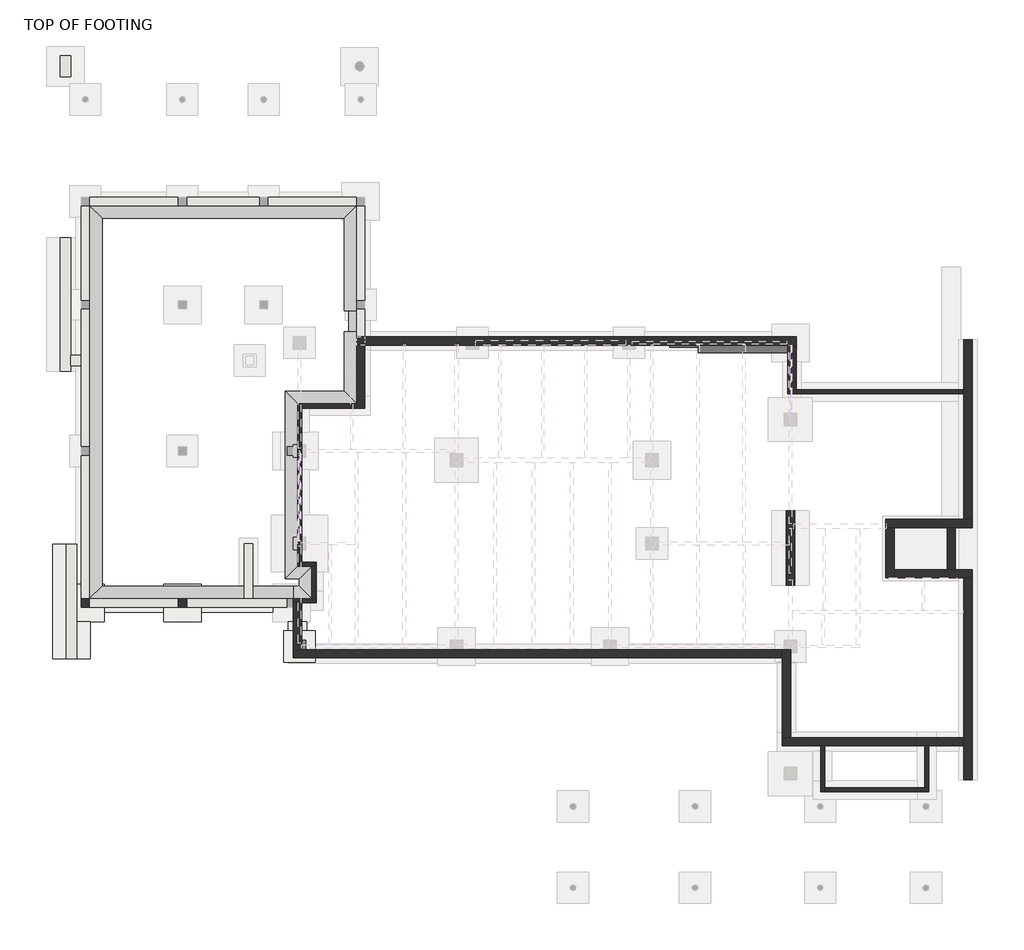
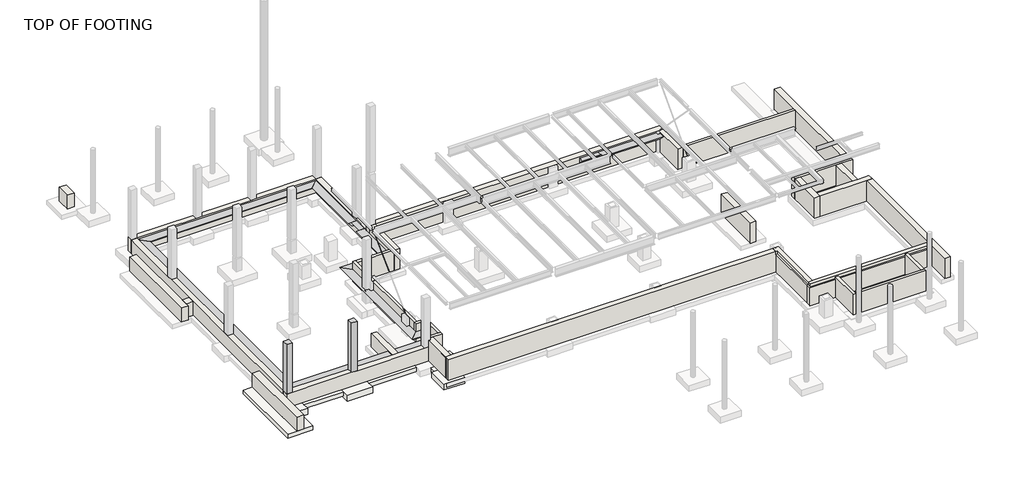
# One storey, part 1 of 4: 32 walls, 8 proxies, 3 footings, 3 slabs, 2 columns.
"""IFC4 building model written with IfcOpenShell, lengths in millimetres."""

from ifc_helpers import new_model, si_unit, frame, origin, place, context, project, spatial, polyline, outline, extrude, faceted_brep, element, save

model = new_model("IFC4")

# Units and contexts
model_context = context("Model", 3, world=origin())
ifc_project = project(units=[si_unit("LENGTHUNIT", "METRE", prefix="MILLI")], contexts=[model_context])

# Site, building, storey
site = spatial("IfcSite", under=ifc_project)
building = spatial("IfcBuilding", under=site)
storey = spatial("IfcBuildingStorey", under=building, Name="TOP OF FOOTING", Elevation=28905.2)

# Proxies
placement = place(None, origin())
element("IfcBuildingElementProxy", 1, Name="Thickened 24\" x 12\"", ObjectType="Thickened 24\" x 12\"", at=placement, inside=storey, context=model_context, shape_type="Brep", body=[
    faceted_brep([(-20560.3454607, 14520.2695005, 29565.6), (-20560.3454607, 14520.2695005, 29870.4), (-19950.7454607, 13910.6695005, 29870.4), (-20255.5454607, 14215.4695005, 29565.6), (-20560.3454607, -4618.6304995, 29565.6), (-20255.5454607, -4313.8304995, 29565.6), (-19950.7454607, -4009.0304995, 29870.4), (-20560.3454607, -4618.6304995, 29870.4)], [[[0, 1, 2, 3]], [[4, 5, 6, 7]], [[1, 0, 4, 7]], [[2, 1, 7, 6]], [[3, 2, 6, 5]], [[0, 3, 5, 4]]]),
])
element("IfcBuildingElementProxy", 2, Name="Thickened 24\" x 12\"", ObjectType="Thickened 24\" x 12\"", at=placement, inside=storey, context=model_context, shape_type="Brep", body=[
    faceted_brep([(-7555.5454607, 9402.1695005, 29565.6), (-7555.5454607, 9402.1695005, 29870.4), (-7923.8454607, 9402.1695005, 29870.4), (-8165.1454607, 9402.1695005, 29870.4), (-7860.3454607, 9402.1695005, 29565.6), (-7619.0454607, 9402.1695005, 29565.6), (-7555.5454607, 14520.2695005, 29565.6), (-7860.3454607, 14215.4695005, 29565.6), (-8165.1454607, 13910.6695005, 29870.4), (-7555.5454607, 14520.2695005, 29870.4)], [[[0, 1, 2, 3, 4, 5]], [[6, 7, 8, 9]], [[1, 0, 6, 9]], [[3, 2, 1, 9, 8]], [[4, 3, 8, 7]], [[0, 5, 4, 7, 6]]]),
])
element("IfcBuildingElementProxy", 3, Name="Thickened 24\" x 12\"", ObjectType="Thickened 24\" x 12\"", at=placement, inside=storey, context=model_context, shape_type="Brep", body=[
    faceted_brep([(-20560.3454607, -4618.6304995, 29565.6), (-20560.3454607, -4618.6304995, 29870.4), (-19950.7454607, -4009.0304995, 29870.4), (-20255.5454607, -4313.8304995, 29565.6), (-10632.1204607, -4618.6304995, 29565.6), (-10632.1204607, -4313.8304995, 29565.6), (-10632.1204607, -4009.0304995, 29870.4), (-10632.1204607, -4618.6304995, 29870.4)], [[[0, 1, 2, 3]], [[4, 5, 6, 7]], [[1, 0, 4, 7]], [[2, 1, 7, 6]], [[3, 2, 6, 5]], [[0, 3, 5, 4]]]),
])
element("IfcBuildingElementProxy", 4, Name="Thickened 24\" x 12\"", ObjectType="Thickened 24\" x 12\"", at=placement, inside=storey, context=model_context, shape_type="Brep", body=[
    faceted_brep([(-10428.9204607, -3040.6554995, 29565.6), (-10428.9204607, -3040.6554995, 29870.4), (-11038.5204607, -3650.2554995, 29870.4), (-10733.7204607, -3345.4554995, 29565.6), (-10428.9204607, 4865.0945005, 29565.6), (-10428.9204607, 4865.0945005, 29870.4), (-11038.5204607, 5474.6945005, 29870.4), (-10733.7204607, 5169.8945005, 29565.6), (-7555.5454607, 4865.0945005, 29565.6), (-7860.3454607, 5169.8945005, 29565.6), (-8165.1454607, 5474.6945005, 29870.4), (-7555.5454607, 4865.0945005, 29870.4)], [[[0, 1, 2, 3]], [[1, 0, 4, 5]], [[2, 1, 5, 6]], [[3, 2, 6, 7]], [[0, 3, 7, 4]], [[8, 9, 10, 11]], [[5, 4, 8, 11]], [[6, 5, 11, 10]], [[7, 6, 10, 9]], [[4, 7, 9, 8]]]),
])
element("IfcBuildingElementProxy", 5, Name="Thickened 24\" x 12\"", ObjectType="Thickened 24\" x 12\"", at=placement, inside=storey, context=model_context, shape_type="Brep", body=[
    faceted_brep([(13450.2545393, 7725.7695005, 30048.2), (13450.2545393, 7725.7695005, 30353.0), (13450.2545393, 7116.1695005, 30353.0), (13450.2545393, 7420.9695005, 30048.2), (9071.9295393, 7725.7695005, 30353.0), (9071.9295393, 7725.7695005, 30048.2), (9071.9295393, 7420.9695005, 30048.2), (9071.9295393, 7116.1695005, 30353.0)], [[[0, 1, 2, 3]], [[4, 5, 6, 7]], [[1, 0, 5, 4]], [[2, 1, 4, 7]], [[3, 2, 7, 6]], [[0, 3, 6, 5]]]),
    faceted_brep([(9071.9295393, 7992.4695005, 30048.2), (9071.9295393, 7992.4695005, 30353.0), (9071.9295393, 7725.7695005, 30353.0), (9071.9295393, 7382.8695005, 30353.0), (9071.9295393, 7687.6695005, 30048.2), (7700.3295393, 7992.4695005, 30353.0), (7700.3295393, 7992.4695005, 30048.2), (7700.3295393, 7687.6695005, 30048.2), (7700.3295393, 7382.8695005, 30353.0), (7700.3295393, 7725.7695005, 30353.0)], [[[0, 1, 2, 3, 4]], [[5, 6, 7, 8, 9]], [[1, 0, 6, 5]], [[3, 2, 1, 5, 9, 8]], [[4, 3, 8, 7]], [[0, 4, 7, 6]]]),
    faceted_brep([(-7555.5454607, 4865.0945005, 29565.6), (-7555.5454607, 4865.0945005, 29870.4), (-8165.1454607, 5474.6945005, 29870.4), (-7860.3454607, 5169.8945005, 29565.6), (-7555.5454607, 8386.1695005, 29870.4), (-7555.5454607, 8386.1695005, 29565.6), (-7860.3454607, 8386.1695005, 29565.6), (-8165.1454607, 8386.1695005, 29870.4)], [[[0, 1, 2, 3]], [[4, 5, 6, 7]], [[1, 0, 5, 4]], [[2, 1, 4, 7]], [[3, 2, 7, 6]], [[0, 3, 6, 5]]]),
    faceted_brep([(-7314.2454607, 8386.1695005, 29565.6), (-7314.2454607, 8386.1695005, 29870.4), (-7555.5454607, 8386.1695005, 29870.4), (-7923.8454607, 8386.1695005, 29870.4), (-7619.0454607, 8386.1695005, 29565.6), (-7314.2454607, 9402.1695005, 29870.4), (-7314.2454607, 9402.1695005, 29565.6), (-7555.5454607, 9402.1695005, 29565.6), (-7619.0454607, 9402.1695005, 29565.6), (-7923.8454607, 9402.1695005, 29870.4), (-7555.5454607, 9402.1695005, 29870.4)], [[[0, 1, 2, 3, 4]], [[5, 6, 7, 8, 9, 10]], [[1, 0, 6, 5]], [[1, 5, 10, 9, 3, 2]], [[4, 3, 9, 8]], [[0, 4, 8, 7, 6]]]),
    faceted_brep([(-7555.5454607, 14520.2695005, 29565.6), (-7555.5454607, 14520.2695005, 29870.4), (-8165.1454607, 13910.6695005, 29870.4), (-7860.3454607, 14215.4695005, 29565.6), (-20560.3454607, 14520.2695005, 29870.4), (-20560.3454607, 14520.2695005, 29565.6), (-20255.5454607, 14215.4695005, 29565.6), (-19950.7454607, 13910.6695005, 29870.4)], [[[0, 1, 2, 3]], [[4, 5, 6, 7]], [[1, 0, 5, 4]], [[2, 1, 4, 7]], [[3, 2, 7, 6]], [[0, 3, 6, 5]]]),
])
element("IfcBuildingElementProxy", 6, Name="Thickened 24\" x 12\"", ObjectType="Thickened 24\" x 12\"", at=placement, inside=storey, context=model_context, shape_type="Brep", body=[
    faceted_brep([(-10632.1204607, -4618.6304995, 29565.6), (-10632.1204607, -4618.6304995, 29870.4), (-10632.1204607, -4009.0304995, 29870.4), (-10632.1204607, -4313.8304995, 29565.6), (-9727.2454607, -4618.6304995, 29565.6), (-10032.0454607, -4313.8304995, 29565.6), (-10336.8454607, -4009.0304995, 29870.4), (-9727.2454607, -4618.6304995, 29870.4)], [[[0, 1, 2, 3]], [[4, 5, 6, 7]], [[1, 0, 4, 7]], [[2, 1, 7, 6]], [[3, 2, 6, 5]], [[0, 3, 5, 4]]]),
])
element("IfcBuildingElementProxy", 7, Name="Thickened 24\" x 12\"", ObjectType="Thickened 24\" x 12\"", at=placement, inside=storey, context=model_context, shape_type="Brep", body=[
    faceted_brep([(-9727.2454607, -4618.6304995, 29565.6), (-9727.2454607, -4618.6304995, 29870.4), (-10336.8454607, -4009.0304995, 29870.4), (-10032.0454607, -4313.8304995, 29565.6), (-9727.2454607, -3040.6554995, 29565.6), (-10032.0454607, -3345.4554995, 29565.6), (-10336.8454607, -3650.2554995, 29870.4), (-9727.2454607, -3040.6554995, 29870.4)], [[[0, 1, 2, 3]], [[4, 5, 6, 7]], [[1, 0, 4, 7]], [[2, 1, 7, 6]], [[3, 2, 6, 5]], [[0, 3, 5, 4]]]),
])
element("IfcBuildingElementProxy", 8, Name="Thickened 24\" x 12\"", ObjectType="Thickened 24\" x 12\"", at=placement, inside=storey, context=model_context, shape_type="Brep", body=[
    faceted_brep([(-9727.2454607, -3040.6554995, 29565.6), (-9727.2454607, -3040.6554995, 29870.4), (-10336.8454607, -3650.2554995, 29870.4), (-10032.0454607, -3345.4554995, 29565.6), (-10428.9204607, -3040.6554995, 29565.6), (-10733.7204607, -3345.4554995, 29565.6), (-11038.5204607, -3650.2554995, 29870.4), (-10428.9204607, -3040.6554995, 29870.4)], [[[0, 1, 2, 3]], [[4, 5, 6, 7]], [[1, 0, 4, 7]], [[2, 1, 7, 6]], [[3, 2, 6, 5]], [[0, 3, 5, 4]]]),
])

# Columns
element("IfcColumn", 9, ObjectType="Concrete-Rectangular-Column : 16 x 16", at=placement, inside=storey, context=model_context, shape_type="Brep", body=[
    faceted_brep([(-20560.3454607, -4618.6304995, 33782.0), (-20560.3454607, -5025.0304995, 33782.0), (-20560.3454607, -5025.0304995, 29972.0), (-20560.3454607, -4618.6304995, 29972.0), (-20966.7454607, -5025.0304995, 33782.0), (-20966.7454607, -5025.0304995, 29972.0), (-20966.7454607, -4720.2304995, 33782.0), (-20966.7454607, -4618.6304995, 33782.0), (-20966.7454607, -4618.6304995, 29972.0)], [[[0, 1, 2, 3]], [[1, 4, 5, 2]], [[4, 6, 7, 8, 5]], [[7, 0, 3, 8]], [[1, 0, 7, 6, 4]], [[3, 2, 5, 8]]]),
])
element("IfcColumn", 10, ObjectType="Concrete-Rectangular-Column : 16 x 16", at=placement, inside=storey, context=model_context, shape_type="SweptSolid", body=[
    extrude(outline(polyline([(-15835.9454607, -4618.6304995), (-15835.9454607, -5025.0304995), (-16242.3454607, -5025.0304995), (-16242.3454607, -4618.6304995), (-15835.9454607, -4618.6304995)])), frame((0.0, 0.0, 29972.0), z_axis=(0.0, 0.0, 1.0), x_axis=(1.0, 0.0, 0.0)), (0.0, 0.0, 1.0), 3810.0),
])

# Footings
element("IfcFooting", 11, ObjectType="Bearing Footing - 36\" x 12\"", at=placement, inside=storey, context=model_context, shape_type="SweptSolid", body=[
    extrude(outline(polyline([(-10886.1204607, -5736.2304995), (-9971.7204607, -5736.2304995), (-9971.7204607, -6180.7304995), (-10886.1204607, -6180.7304995), (-10886.1204607, -5736.2304995)])), frame((0.0, 0.0, 28600.4), z_axis=(0.0, 0.0, 1.0), x_axis=(1.0, 0.0, 0.0)), (0.0, 0.0, 1.0), 304.8),
])
element("IfcFooting", 12, ObjectType="Bearing Footing - 36\" x 12\"", at=placement, inside=storey, context=model_context, shape_type="Brep", body=[
    faceted_brep([(-19849.1454607, -4364.6304995, 28905.2), (-19849.1454607, -5279.0304995, 28905.2), (-16953.5454607, -5279.0304995, 28905.2), (-16953.5454607, -4364.6304995, 28905.2), (-19849.1454607, -5279.0304995, 28600.4), (-16953.5454607, -5279.0304995, 28600.4), (-19849.1454607, -4364.6304995, 28600.4), (-16953.5454607, -4364.6304995, 28600.4)], [[[0, 1, 2, 3]], [[1, 4, 5, 2]], [[4, 6, 7, 5]], [[6, 0, 3, 7]], [[1, 0, 6, 4]], [[3, 2, 5, 7]]]),
    faceted_brep([(-15124.7454607, -4364.6304995, 28905.2), (-15124.7454607, -5279.0304995, 28905.2), (-11647.3763201, -5279.0304995, 28905.2), (-11647.3763201, -4364.6304995, 28905.2), (-12354.5579607, -4364.6304995, 28905.2), (-13268.9579607, -4364.6304995, 28905.2), (-15124.7454607, -5279.0304995, 28600.4), (-11647.3763201, -5279.0304995, 28600.4), (-15124.7454607, -4364.6304995, 28600.4), (-13268.9579607, -4364.6304995, 28600.4), (-12354.5579607, -4364.6304995, 28600.4), (-11647.3763201, -4364.6304995, 28600.4)], [[[0, 1, 2, 3, 4, 5]], [[1, 6, 7, 2]], [[6, 8, 9, 10, 11, 7]], [[8, 0, 5, 4, 3, 11, 10, 9]], [[1, 0, 8, 6]], [[3, 2, 7, 11]]]),
])
element("IfcFooting", 13, ObjectType="Bearing Footing - 72\" x 12\" 2", at=placement, inside=storey, context=model_context, shape_type="SweptSolid", body=[
    extrude(outline(polyline([(-20517.4622482, -7552.3304995), (-22346.2622482, -7552.3304995), (-22346.2622482, -1964.3304995), (-21220.7454607, -1964.3304995), (-21220.7454607, -3907.4304995), (-21677.9454607, -3907.4304995), (-21677.9454607, -5736.2304995), (-20517.4622482, -5736.2304995), (-20517.4622482, -7552.3304995)])), frame((0.0, 0.0, 28600.4), z_axis=(0.0, 0.0, 1.0), x_axis=(1.0, 0.0, 0.0)), (0.0, 0.0, 1.0), 304.8),
])

# Slabs
element("IfcSlab", 14, ObjectType="Footing-Rectangular : 6'-0\" x 6'-0\" x 1'-6\"", at=placement, inside=storey, context=model_context, shape_type="Brep", body=[
    faceted_brep([(-19849.1454607, -3907.4304995, 28905.2), (-20306.3454607, -3907.4304995, 28905.2), (-21220.7454607, -3907.4304995, 28905.2), (-21677.9454607, -3907.4304995, 28905.2), (-21677.9454607, -5736.2304995, 28905.2), (-20517.4622482, -5736.2304995, 28905.2), (-19849.1454607, -5736.2304995, 28905.2), (-19849.1454607, -5279.0304995, 28905.2), (-19849.1454607, -4364.6304995, 28905.2), (-19849.1454607, -3907.4304995, 28448.0), (-19849.1454607, -5736.2304995, 28448.0), (-21677.9454607, -5736.2304995, 28448.0), (-21677.9454607, -3907.4304995, 28448.0), (-21677.9454607, -3907.4304995, 28600.4), (-21677.9454607, -5736.2304995, 28600.4)], [[[0, 1, 2, 3, 4, 5, 6, 7, 8]], [[9, 10, 11, 12]], [[3, 2, 1, 0, 9, 12, 13]], [[4, 3, 13, 12, 11, 14]], [[6, 5, 4, 14, 11, 10]], [[0, 8, 7, 6, 10, 9]]]),
])
element("IfcSlab", 15, ObjectType="Footing-Rectangular : 6'-0\" x 6'-0\" x 1'-6\"", at=placement, inside=storey, context=model_context, shape_type="Brep", body=[
    faceted_brep([(-15124.7454607, -3907.4304995, 28905.2), (-16953.5454607, -3907.4304995, 28905.2), (-16953.5454607, -4364.6304995, 28905.2), (-16953.5454607, -5279.0304995, 28905.2), (-16953.5454607, -5736.2304995, 28905.2), (-15124.7454607, -5736.2304995, 28905.2), (-15124.7454607, -5279.0304995, 28905.2), (-15124.7454607, -4364.6304995, 28905.2), (-15124.7454607, -3907.4304995, 28448.0), (-15124.7454607, -5736.2304995, 28448.0), (-16953.5454607, -5736.2304995, 28448.0), (-16953.5454607, -3907.4304995, 28448.0)], [[[0, 1, 2, 3, 4, 5, 6, 7]], [[8, 9, 10, 11]], [[1, 0, 8, 11]], [[4, 3, 2, 1, 11, 10]], [[5, 4, 10, 9]], [[0, 7, 6, 5, 9, 8]]]),
])
element("IfcSlab", 16, ObjectType="Footing-Rectangular_With_Pier : F1 - 5'-0\" x 5'-0\" x 1'-6\"", at=placement, inside=storey, context=model_context, shape_type="SolidModel", body=[
    extrude(outline(polyline([(-10022.5204607, -6637.9304995), (-10022.5204607, -7247.5304995), (-10632.1204607, -7247.5304995), (-10632.1204607, -6637.9304995), (-10022.5204607, -6637.9304995)])), frame((0.0, 0.0, 28905.2), z_axis=(0.0, 0.0, 1.0), x_axis=(1.0, 0.0, 0.0)), (0.0, 0.0, 1.0), 1549.4),
    faceted_brep([(-9565.3204607, -6180.7304995, 28905.2), (-9971.7204607, -6180.7304995, 28905.2), (-10886.1204607, -6180.7304995, 28905.2), (-11089.3204607, -6180.7304995, 28905.2), (-11089.3204607, -7704.7304995, 28905.2), (-10886.1204607, -7704.7304995, 28905.2), (-9565.3204607, -7704.7304995, 28905.2), (-9565.3204607, -6841.1304995, 28905.2), (-9565.3204607, -6180.7304995, 28448.0), (-9565.3204607, -7704.7304995, 28448.0), (-11089.3204607, -7704.7304995, 28448.0), (-11089.3204607, -6180.7304995, 28448.0), (-9565.3204607, -7704.7304995, 28600.4)], [[[0, 1, 2, 3, 4, 5, 6, 7]], [[8, 9, 10, 11]], [[3, 2, 1, 0, 8, 11]], [[4, 3, 11, 10]], [[6, 5, 4, 10, 9, 12]], [[0, 7, 6, 12, 9, 8]]]),
])

# Walls
element("IfcWall", 17, ObjectType="Foundation - 16\" Concrete", at=placement, inside=storey, context=model_context, shape_type="Brep", body=[
    faceted_brep([(-7555.5454607, 7725.7695005, 28905.2), (-7149.1454607, 7725.7695005, 28905.2), (13450.2545393, 7725.7695005, 28905.2), (13856.6545393, 7725.7695005, 28905.2), (13856.6545393, 7725.7695005, 30480.0), (13450.2545393, 7725.7695005, 30480.0), (-7149.1454607, 7725.7695005, 30480.0), (-7555.5454607, 7725.7695005, 30480.0), (-7555.5454607, 8132.1695005, 28905.2), (-7555.5454607, 8132.1695005, 29972.0), (-7555.5454607, 8132.1695005, 30480.0), (-7149.1454607, 8132.1695005, 30480.0), (13856.6545393, 8132.1695005, 30480.0), (13856.6545393, 8132.1695005, 28905.2), (-7149.1454607, 8132.1695005, 28905.2)], [[[0, 1, 2, 3, 4, 5, 6, 7]], [[8, 9, 10, 11, 12, 13, 14]], [[3, 2, 1, 0, 8, 14, 13]], [[7, 6, 5, 4, 12, 11, 10]], [[4, 3, 13, 12]], [[0, 7, 10, 9, 8]]]),
])
element("IfcWall", 18, ObjectType="Foundation - 16\" Concrete", at=placement, inside=storey, context=model_context, shape_type="Brep", body=[
    faceted_brep([(13450.2545393, 7725.7695005, 28905.2), (13450.2545393, 5350.8695005, 28905.2), (13450.2545393, 5350.8695005, 30480.0), (13450.2545393, 7725.7695005, 30480.0), (13856.6545393, 7725.7695005, 28905.2), (13856.6545393, 7725.7695005, 30480.0), (13856.6545393, 5554.0695005, 30480.0), (13856.6545393, 5350.8695005, 30480.0), (13856.6545393, 5350.8695005, 28905.2), (13856.6545393, 5554.0695005, 28905.2)], [[[0, 1, 2, 3]], [[4, 5, 6, 7, 8, 9]], [[1, 0, 4, 9, 8]], [[3, 2, 7, 6, 5]], [[0, 3, 5, 4]], [[2, 1, 8, 7]]]),
])
element("IfcWall", 19, ObjectType="Foundation - 16\" Concrete", at=placement, inside=storey, context=model_context, shape_type="Brep", body=[
    faceted_brep([(22019.578935, 7995.5948911, 28905.2), (22019.578935, 5554.0695005, 28905.2), (22019.578935, 5350.8695005, 28905.2), (22019.578935, -757.8304995, 28905.2), (22019.578935, -757.8304995, 30480.0), (22019.578935, 5350.8695005, 30480.0), (22019.578935, 5554.0695005, 30480.0), (22019.578935, 7995.5948911, 30480.0), (22425.978935, 7995.5948911, 28905.2), (22425.978935, 7995.5948911, 30480.0), (22425.978935, -757.8304995, 30480.0), (22425.978935, -757.8304995, 28905.2)], [[[0, 1, 2, 3, 4, 5, 6, 7]], [[8, 9, 10, 11]], [[3, 2, 1, 0, 8, 11]], [[7, 6, 5, 4, 10, 9]], [[0, 7, 9, 8]], [[4, 3, 11, 10]]]),
])
element("IfcWall", 20, ObjectType="Foundation - 16\" Concrete", at=placement, inside=storey, context=model_context, shape_type="Brep", body=[
    faceted_brep([(13177.2045393, -7095.1304995, 28905.2), (-10225.7204607, -7095.1304995, 28905.2), (-10632.1204607, -7095.1304995, 28905.2), (-10632.1204607, -7095.1304995, 30480.0), (-10225.7204607, -7095.1304995, 30480.0), (13177.2045393, -7095.1304995, 30480.0), (13177.2045393, -7501.5304995, 28905.2), (13177.2045393, -7501.5304995, 30276.8), (13177.2045393, -7501.5304995, 30480.0), (-10632.1204607, -7501.5304995, 30480.0), (-10632.1204607, -7501.5304995, 28905.2)], [[[0, 1, 2, 3, 4, 5]], [[6, 7, 8, 9, 10]], [[2, 1, 0, 6, 10]], [[5, 4, 3, 9, 8]], [[3, 2, 10, 9]], [[0, 5, 8, 7, 6]]]),
])
element("IfcWall", 21, ObjectType="Foundation - 16\" Concrete", at=placement, inside=storey, context=model_context, shape_type="Brep", body=[
    faceted_brep([(-10225.7204607, -7095.1304995, 28905.2), (-10225.7204607, -4821.8304995, 28905.2), (-10225.7204607, -4821.8304995, 30480.0), (-10225.7204607, -7095.1304995, 30480.0), (-10632.1204607, -7095.1304995, 28905.2), (-10632.1204607, -7095.1304995, 30480.0), (-10632.1204607, -5025.0304995, 30480.0), (-10632.1204607, -4821.8304995, 30480.0), (-10632.1204607, -4821.8304995, 28905.2)], [[[0, 1, 2, 3]], [[4, 5, 6, 7, 8]], [[1, 0, 4, 8]], [[3, 2, 7, 6, 5]], [[0, 3, 5, 4]], [[2, 1, 8, 7]]]),
])
element("IfcWall", 22, ObjectType="Foundation - 16\" Concrete", at=placement, inside=storey, context=model_context, shape_type="Brep", body=[
    faceted_brep([(22425.978935, -757.8304995, 28905.2), (22019.578935, -757.8304995, 28905.2), (18219.8486799, -757.8304995, 28905.2), (18219.8486799, -757.8304995, 30480.0), (22019.578935, -757.8304995, 30480.0), (22425.978935, -757.8304995, 30480.0), (22425.978935, -1164.2304995, 28905.2), (22425.978935, -1164.2304995, 30480.0), (21605.9861799, -1164.2304995, 30480.0), (21199.5861799, -1164.2304995, 30480.0), (18626.2486799, -1164.2304995, 30480.0), (18219.8486799, -1164.2304995, 30480.0), (18219.8486799, -1164.2304995, 28905.2), (18626.2486799, -1164.2304995, 28905.2), (21199.5861799, -1164.2304995, 28905.2), (21605.9861799, -1164.2304995, 28905.2)], [[[0, 1, 2, 3, 4, 5]], [[6, 7, 8, 9, 10, 11, 12, 13, 14, 15]], [[2, 1, 0, 6, 15, 14, 13, 12]], [[5, 4, 3, 11, 10, 9, 8, 7]], [[0, 5, 7, 6]], [[3, 2, 12, 11]]]),
])
element("IfcWall", 23, ObjectType="Foundation - 16\" Concrete", at=placement, inside=storey, context=model_context, shape_type="Brep", body=[
    faceted_brep([(-20966.7454607, 14520.2695005, 28905.2), (-20560.3454607, 14520.2695005, 28905.2), (-7555.5454607, 14520.2695005, 28905.2), (-7149.1454607, 14520.2695005, 28905.2), (-7149.1454607, 14520.2695005, 29972.0), (-7555.5454607, 14520.2695005, 29972.0), (-11873.5454607, 14520.2695005, 29972.0), (-12279.9454607, 14520.2695005, 29972.0), (-15835.9454607, 14520.2695005, 29972.0), (-16242.3454607, 14520.2695005, 29972.0), (-20560.3454607, 14520.2695005, 29972.0), (-20966.7454607, 14520.2695005, 29972.0), (-20966.7454607, 14926.6695005, 28905.2), (-20966.7454607, 14926.6695005, 29972.0), (-20560.3454607, 14926.6695005, 29972.0), (-16242.3454607, 14926.6695005, 29972.0), (-15835.9454607, 14926.6695005, 29972.0), (-12279.9454607, 14926.6695005, 29972.0), (-11873.5454607, 14926.6695005, 29972.0), (-7555.5454607, 14926.6695005, 29972.0), (-7149.1454607, 14926.6695005, 29972.0), (-7149.1454607, 14926.6695005, 28905.2)], [[[0, 1, 2, 3, 4, 5, 6, 7, 8, 9, 10, 11]], [[12, 13, 14, 15, 16, 17, 18, 19, 20, 21]], [[3, 2, 1, 0, 12, 21]], [[11, 10, 9, 8, 7, 6, 5, 4, 20, 19, 18, 17, 16, 15, 14, 13]], [[4, 3, 21, 20]], [[0, 11, 13, 12]]]),
])
element("IfcWall", 24, ObjectType="Foundation - 16\" Concrete", at=placement, inside=storey, context=model_context, shape_type="Brep", body=[
    faceted_brep([(-7555.5454607, 14520.2695005, 28905.2), (-7555.5454607, 8132.1695005, 28905.2), (-7555.5454607, 8132.1695005, 29972.0), (-7555.5454607, 9491.0695005, 29972.0), (-7555.5454607, 9897.4695005, 29972.0), (-7555.5454607, 14520.2695005, 29972.0), (-7149.1454607, 14520.2695005, 28905.2), (-7149.1454607, 14520.2695005, 29972.0), (-7149.1454607, 9897.4695005, 29972.0), (-7149.1454607, 9491.0695005, 29972.0), (-7149.1454607, 8132.1695005, 29972.0), (-7149.1454607, 8132.1695005, 28905.2)], [[[0, 1, 2, 3, 4, 5]], [[6, 7, 8, 9, 10, 11]], [[1, 0, 6, 11]], [[5, 4, 3, 2, 10, 9, 8, 7]], [[0, 5, 7, 6]], [[2, 1, 11, 10]]]),
])
element("IfcWall", 25, ObjectType="Foundation - 16\" Concrete", at=placement, inside=storey, context=model_context, shape_type="Brep", body=[
    faceted_brep([(-10632.1204607, -4618.6304995, 28905.2), (-12608.5579607, -4618.6304995, 28905.2), (-13014.9579607, -4618.6304995, 28905.2), (-20560.3454607, -4618.6304995, 28905.2), (-20966.7454607, -4618.6304995, 28905.2), (-20966.7454607, -4618.6304995, 29972.0), (-20560.3454607, -4618.6304995, 29972.0), (-16242.3454607, -4618.6304995, 29972.0), (-15835.9454607, -4618.6304995, 29972.0), (-13014.9579607, -4618.6304995, 29972.0), (-12608.5579607, -4618.6304995, 29972.0), (-10936.1763201, -4618.6304995, 29972.0), (-10632.1204607, -4618.6304995, 29972.0), (-10632.1204607, -5025.0304995, 28905.2), (-10632.1204607, -5025.0304995, 29972.0), (-10936.1763201, -5025.0304995, 29972.0), (-15835.9454607, -5025.0304995, 29972.0), (-16242.3454607, -5025.0304995, 29972.0), (-20560.3454607, -5025.0304995, 29972.0), (-20966.7454607, -5025.0304995, 29972.0), (-20966.7454607, -5025.0304995, 28905.2)], [[[0, 1, 2, 3, 4, 5, 6, 7, 8, 9, 10, 11, 12]], [[13, 14, 15, 16, 17, 18, 19, 20]], [[4, 3, 2, 1, 0, 13, 20]], [[12, 11, 10, 9, 8, 7, 6, 5, 19, 18, 17, 16, 15, 14]], [[0, 12, 14, 13]], [[5, 4, 20, 19]]]),
])
element("IfcWall", 26, ObjectType="Foundation - 16\" Concrete", at=placement, inside=storey, context=model_context, shape_type="Brep", body=[
    faceted_brep([(-20560.3454607, -4618.6304995, 28905.2), (-20560.3454607, 14520.2695005, 28905.2), (-20560.3454607, 14520.2695005, 29972.0), (-20560.3454607, 9897.4695005, 29972.0), (-20560.3454607, 9491.0695005, 29972.0), (-20560.3454607, 2785.4695005, 29972.0), (-20560.3454607, 2379.0695005, 29972.0), (-20560.3454607, -4618.6304995, 29972.0), (-20966.7454607, -4618.6304995, 28905.2), (-20966.7454607, -4618.6304995, 29972.0), (-20966.7454607, 2379.0695005, 29972.0), (-20966.7454607, 2785.4695005, 29972.0), (-20966.7454607, 6722.4695005, 29972.0), (-20966.7454607, 7230.4695005, 29972.0), (-20966.7454607, 9491.0695005, 29972.0), (-20966.7454607, 9897.4695005, 29972.0), (-20966.7454607, 14520.2695005, 29972.0), (-20966.7454607, 14520.2695005, 28905.2), (-20966.7454607, 7230.4695005, 28905.2), (-20966.7454607, 6722.4695005, 28905.2)], [[[0, 1, 2, 3, 4, 5, 6, 7]], [[8, 9, 10, 11, 12, 13, 14, 15, 16, 17, 18, 19]], [[1, 0, 8, 19, 18, 17]], [[7, 6, 5, 4, 3, 2, 16, 15, 14, 13, 12, 11, 10, 9]], [[0, 7, 9, 8]], [[2, 1, 17, 16]]]),
])
element("IfcWall", 27, ObjectType="Foundation - 16\" Concrete", at=placement, inside=storey, context=model_context, shape_type="Brep", body=[
    faceted_brep([(-7555.5454607, 7725.7695005, 30480.0), (-7555.5454607, 7725.7695005, 28905.2), (-7555.5454607, 4865.0945005, 28905.2), (-7555.5454607, 4661.8945005, 28905.2), (-7555.5454607, 4661.8945005, 30480.0), (-7555.5454607, 4865.0945005, 30480.0), (-7149.1454607, 7725.7695005, 28905.2), (-7149.1454607, 7725.7695005, 30480.0), (-7149.1454607, 4661.8945005, 30480.0), (-7149.1454607, 4661.8945005, 28905.2)], [[[0, 1, 2, 3, 4, 5]], [[6, 7, 8, 9]], [[3, 2, 1, 6, 9]], [[0, 5, 4, 8, 7]], [[4, 3, 9, 8]], [[0, 7, 6, 1]]]),
])
element("IfcWall", 28, ObjectType="Foundation - 16\" Concrete", at=placement, inside=storey, context=model_context, shape_type="Brep", body=[
    faceted_brep([(18626.2486799, -3602.6304995, 28905.2), (18626.2486799, -3196.2304995, 28905.2), (18626.2486799, -1164.2304995, 28905.2), (18626.2486799, -1164.2304995, 30480.0), (18626.2486799, -3196.2304995, 30480.0), (18626.2486799, -3602.6304995, 30480.0), (18219.8486799, -3602.6304995, 28905.2), (18219.8486799, -3602.6304995, 30480.0), (18219.8486799, -1164.2304995, 30480.0), (18219.8486799, -1164.2304995, 28905.2)], [[[0, 1, 2, 3, 4, 5]], [[6, 7, 8, 9]], [[2, 1, 0, 6, 9]], [[5, 4, 3, 8, 7]], [[0, 5, 7, 6]], [[3, 2, 9, 8]]]),
])
element("IfcWall", 29, ObjectType="Foundation - 16\" Concrete", at=placement, inside=storey, context=model_context, shape_type="Brep", body=[
    faceted_brep([(18626.2486799, -3602.6304995, 28905.2), (22019.578935, -3602.6304995, 28905.2), (22425.978935, -3602.6304995, 28905.2), (22425.978935, -3602.6304995, 30480.0), (22019.578935, -3602.6304995, 30480.0), (18626.2486799, -3602.6304995, 30480.0), (18626.2486799, -3196.2304995, 28905.2), (18626.2486799, -3196.2304995, 30480.0), (21199.5861799, -3196.2304995, 30480.0), (21605.9861799, -3196.2304995, 30480.0), (22425.978935, -3196.2304995, 30480.0), (22425.978935, -3196.2304995, 28905.2), (21605.9861799, -3196.2304995, 28905.2), (21199.5861799, -3196.2304995, 28905.2)], [[[0, 1, 2, 3, 4, 5]], [[6, 7, 8, 9, 10, 11, 12, 13]], [[2, 1, 0, 6, 13, 12, 11]], [[5, 4, 3, 10, 9, 8, 7]], [[0, 5, 7, 6]], [[3, 2, 11, 10]]]),
])
element("IfcWall", 30, ObjectType="Foundation - 16\" Concrete", at=placement, inside=storey, context=model_context, shape_type="SweptSolid", body=[
    extrude(outline(polyline([(21605.9861799, -1164.2304995), (21605.9861799, -3196.2304995), (21199.5861799, -3196.2304995), (21199.5861799, -1164.2304995), (21605.9861799, -1164.2304995)])), frame((0.0, 0.0, 28905.2), z_axis=(0.0, 0.0, 1.0), x_axis=(1.0, 0.0, 0.0)), (0.0, 0.0, 1.0), 1574.8),
])
element("IfcWall", 31, ObjectType="Foundation - 16\" Concrete", at=placement, inside=storey, context=model_context, shape_type="SweptSolid", body=[
    extrude(outline(polyline([(-12608.5579607, -1935.7554995), (-12608.5579607, -4618.6304995), (-13014.9579607, -4618.6304995), (-13014.9579607, -1935.7554995), (-12608.5579607, -1935.7554995)])), frame((0.0, 0.0, 28905.2), z_axis=(0.0, 0.0, 1.0), x_axis=(1.0, 0.0, 0.0)), (0.0, 0.0, 1.0), 1066.8),
])
element("IfcWall", 32, ObjectType="Foundation - 16\" Concrete", at=placement, inside=storey, context=model_context, shape_type="Brep", body=[
    faceted_brep([(22019.578935, -3602.6304995, 28905.2), (22019.578935, -11381.3804995, 28905.2), (22019.578935, -11787.7804995, 28905.2), (22019.578935, -13445.1304995, 28905.2), (22019.578935, -13445.1304995, 30480.0), (22019.578935, -11686.1804995, 30480.0), (22019.578935, -11381.3804995, 30480.0), (22019.578935, -3602.6304995, 30480.0), (22425.978935, -3602.6304995, 28905.2), (22425.978935, -3602.6304995, 30480.0), (22425.978935, -13445.1304995, 30480.0), (22425.978935, -13445.1304995, 28905.2)], [[[0, 1, 2, 3, 4, 5, 6, 7]], [[8, 9, 10, 11]], [[3, 2, 1, 0, 8, 11]], [[4, 3, 11, 10]], [[7, 6, 5, 4, 10, 9]], [[0, 7, 9, 8]]]),
])
element("IfcWall", 33, ObjectType="Foundation - 16\" Concrete", at=placement, inside=storey, context=model_context, shape_type="SweptSolid", body=[
    extrude(outline(polyline([(13364.5295393, -3958.2304995), (13364.5295393, -326.0304995), (13770.9295393, -326.0304995), (13770.9295393, -3958.2304995), (13364.5295393, -3958.2304995)])), frame((0.0, 0.0, 28905.2), z_axis=(0.0, 0.0, 1.0), x_axis=(1.0, 0.0, 0.0)), (0.0, 0.0, 1.0), 1574.8),
])
element("IfcWall", 34, ObjectType="Foundation - 16\" Concrete w/Brick Ledge", at=placement, inside=storey, context=model_context, shape_type="Brep", body=[
    faceted_brep([(22019.578935, -11381.3804995, 28905.2), (13583.6045393, -11381.3804995, 28905.2), (13177.2045393, -11381.3804995, 28905.2), (13177.2045393, -11381.3804995, 30276.8), (13278.8045393, -11381.3804995, 30276.8), (13278.8045393, -11381.3804995, 30480.0), (13583.6045393, -11381.3804995, 30480.0), (22019.578935, -11381.3804995, 30480.0), (13177.2045393, -11787.7804995, 28905.2), (15037.7545393, -11787.7804995, 28905.2), (15240.9545393, -11787.7804995, 28905.2), (20105.0545393, -11787.7804995, 28905.2), (20308.2545393, -11787.7804995, 28905.2), (22019.578935, -11787.7804995, 28905.2), (22019.578935, -11787.7804995, 30276.8), (13177.2045393, -11787.7804995, 30276.8), (13278.8045393, -11686.1804995, 30480.0), (22019.578935, -11686.1804995, 30480.0), (13278.8045393, -11686.1804995, 30276.8), (22019.578935, -11686.1804995, 30276.8)], [[[0, 1, 2, 3, 4, 5, 6, 7]], [[8, 9, 10, 11, 12, 13, 14, 15]], [[2, 1, 0, 13, 12, 11, 10, 9, 8]], [[7, 6, 5, 16, 17]], [[2, 8, 15, 3]], [[18, 19, 17, 16]], [[19, 18, 4, 3, 15, 14]], [[18, 16, 5, 4]], [[0, 7, 17, 19, 14, 13]]]),
])
element("IfcWall", 35, ObjectType="Foundation - 16\" Concrete w/Brick Ledge", at=placement, inside=storey, context=model_context, shape_type="Brep", body=[
    faceted_brep([(13583.6045393, -11381.3804995, 28905.2), (13583.6045393, -7095.1304995, 28905.2), (13583.6045393, -7095.1304995, 30480.0), (13583.6045393, -11381.3804995, 30480.0), (13177.2045393, -7095.1304995, 28905.2), (13177.2045393, -7501.5304995, 28905.2), (13177.2045393, -11381.3804995, 28905.2), (13177.2045393, -11381.3804995, 30276.8), (13177.2045393, -7501.5304995, 30276.8), (13177.2045393, -7501.5304995, 30480.0), (13177.2045393, -7095.1304995, 30480.0), (13278.8045393, -7501.5304995, 30480.0), (13278.8045393, -11381.3804995, 30480.0), (13278.8045393, -11381.3804995, 30276.8), (13278.8045393, -7501.5304995, 30276.8)], [[[0, 1, 2, 3]], [[4, 5, 6, 7, 8, 9, 10]], [[1, 0, 6, 5, 4]], [[3, 2, 10, 9, 11, 12]], [[2, 1, 4, 10]], [[0, 3, 12, 13, 7, 6]], [[8, 14, 11, 9]], [[11, 14, 13, 12]], [[14, 8, 7, 13]]]),
])
element("IfcWall", 36, ObjectType="Foundation - 20\" Concrete", at=placement, inside=storey, context=model_context, shape_type="Brep", body=[
    faceted_brep([(-21990.9734711, 12968.7995005, 28905.2), (-21990.9734711, 6469.2695005, 28905.2), (-21990.9734711, 6469.2695005, 29972.0), (-21990.9734711, 12968.7995005, 29972.0), (-21482.9734711, 12968.7995005, 28905.2), (-21482.9734711, 12968.7995005, 29972.0), (-21482.9734711, 7230.4695005, 29972.0), (-21482.9734711, 6722.4695005, 29972.0), (-21482.9734711, 6469.2695005, 29972.0), (-21482.9734711, 6469.2695005, 28905.2), (-21482.9734711, 6722.4695005, 28905.2), (-21482.9734711, 7230.4695005, 28905.2)], [[[0, 1, 2, 3]], [[4, 5, 6, 7, 8, 9, 10, 11]], [[1, 0, 4, 11, 10, 9]], [[2, 1, 9, 8]], [[3, 2, 8, 7, 6, 5]], [[0, 3, 5, 4]]]),
])
element("IfcWall", 37, ObjectType="Foundation - 20\" Concrete", at=placement, inside=storey, context=model_context, shape_type="SweptSolid", body=[
    extrude(outline(polyline([(-21685.8622482, -7552.3304995), (-21685.8622482, -1964.3304995), (-21177.8622482, -1964.3304995), (-21177.8622482, -7552.3304995), (-21685.8622482, -7552.3304995)])), frame((0.0, 0.0, 28905.2), z_axis=(0.0, 0.0, 1.0), x_axis=(1.0, 0.0, 0.0)), (0.0, 0.0, 1.0), 1066.8),
])
element("IfcWall", 38, ObjectType="Foundation - 20\" Concrete", at=placement, inside=storey, context=model_context, shape_type="SweptSolid", body=[
    extrude(outline(polyline([(-21990.9919313, 20797.4082736), (-21990.9919313, 21813.4082736), (-21482.9919313, 21813.4082736), (-21482.9919313, 20797.4082736), (-21990.9919313, 20797.4082736)])), frame((0.0, 0.0, 28905.2), z_axis=(0.0, 0.0, 1.0), x_axis=(1.0, 0.0, 0.0)), (0.0, 0.0, 1.0), 1066.8),
])
element("IfcWall", 39, ObjectType="Foundation - 20\" Concrete", at=placement, inside=storey, context=model_context, shape_type="SweptSolid", body=[
    extrude(outline(polyline([(-20966.7454607, 6722.4695005), (-21482.9734711, 6722.4695005), (-21482.9734711, 7230.4695005), (-20966.7454607, 7230.4695005), (-20966.7454607, 6722.4695005)])), frame((0.0, 0.0, 28905.2), z_axis=(0.0, 0.0, 1.0), x_axis=(1.0, 0.0, 0.0)), (0.0, 0.0, 1.0), 1066.8),
])
element("IfcWall", 40, ObjectType="Foundation - 8\" Concrete", at=placement, inside=storey, context=model_context, shape_type="SweptSolid", body=[
    extrude(outline(polyline([(22019.578935, 5350.8695005), (13856.6545393, 5350.8695005), (13856.6545393, 5554.0695005), (22019.578935, 5554.0695005), (22019.578935, 5350.8695005)])), frame((0.0, 0.0, 28905.2), z_axis=(0.0, 0.0, 1.0), x_axis=(1.0, 0.0, 0.0)), (0.0, 0.0, 1.0), 1574.8),
])
element("IfcWall", 41, ObjectType="Foundation - 8\" Concrete", at=placement, inside=storey, context=model_context, shape_type="Brep", body=[
    faceted_brep([(-10225.7204607, -2837.4554995, 28905.2), (-10225.7204607, 4661.8945005, 28905.2), (-10225.7204607, 4865.0945005, 28905.2), (-10225.7204607, 4865.0945005, 30480.0), (-10225.7204607, 4661.8945005, 30480.0), (-10225.7204607, -2837.4554995, 30480.0), (-10428.9204607, -2837.4554995, 28905.2), (-10428.9204607, -2837.4554995, 30480.0), (-10428.9204607, 4865.0945005, 30480.0), (-10428.9204607, 4865.0945005, 28905.2)], [[[0, 1, 2, 3, 4, 5]], [[6, 7, 8, 9]], [[2, 1, 0, 6, 9]], [[5, 4, 3, 8, 7]], [[3, 2, 9, 8]], [[0, 5, 7, 6]]]),
])
element("IfcWall", 42, ObjectType="Foundation - 8\" Concrete", at=placement, inside=storey, context=model_context, shape_type="SweptSolid", body=[
    extrude(outline(polyline([(-10225.7204607, 4865.0945005), (-7555.5454607, 4865.0945005), (-7555.5454607, 4661.8945005), (-10225.7204607, 4661.8945005), (-10225.7204607, 4865.0945005)])), frame((0.0, 0.0, 28905.2), z_axis=(0.0, 0.0, 1.0), x_axis=(1.0, 0.0, 0.0)), (0.0, 0.0, 1.0), 1574.8),
])
element("IfcWall", 43, ObjectType="Foundation - 8\" Concrete", at=placement, inside=storey, context=model_context, shape_type="Brep", body=[
    faceted_brep([(-10428.9204607, -3040.6554995, 28905.2), (-9727.2454607, -3040.6554995, 28905.2), (-9524.0454607, -3040.6554995, 28905.2), (-9524.0454607, -3040.6554995, 30480.0), (-9727.2454607, -3040.6554995, 30480.0), (-10428.9204607, -3040.6554995, 30480.0), (-10428.9204607, -2837.4554995, 28905.2), (-10428.9204607, -2837.4554995, 30480.0), (-10225.7204607, -2837.4554995, 30480.0), (-9524.0454607, -2837.4554995, 30480.0), (-9524.0454607, -2837.4554995, 28905.2), (-10225.7204607, -2837.4554995, 28905.2)], [[[0, 1, 2, 3, 4, 5]], [[6, 7, 8, 9, 10, 11]], [[2, 1, 0, 6, 11, 10]], [[5, 4, 3, 9, 8, 7]], [[3, 2, 10, 9]], [[0, 5, 7, 6]]]),
])
element("IfcWall", 44, ObjectType="Foundation - 8\" Concrete", at=placement, inside=storey, context=model_context, shape_type="SweptSolid", body=[
    extrude(outline(polyline([(-9727.2454607, -4618.6304995), (-9727.2454607, -3040.6554995), (-9524.0454607, -3040.6554995), (-9524.0454607, -4618.6304995), (-9727.2454607, -4618.6304995)])), frame((0.0, 0.0, 28905.2), z_axis=(0.0, 0.0, 1.0), x_axis=(1.0, 0.0, 0.0)), (0.0, 0.0, 1.0), 1574.8),
])
element("IfcWall", 45, ObjectType="Foundation - 8\" Concrete", at=placement, inside=storey, context=model_context, shape_type="Brep", body=[
    faceted_brep([(-9524.0454607, -4618.6304995, 28905.2), (-9727.2454607, -4618.6304995, 28905.2), (-10632.1204607, -4618.6304995, 28905.2), (-10632.1204607, -4618.6304995, 29972.0), (-10632.1204607, -4618.6304995, 30480.0), (-10529.7763201, -4618.6304995, 30480.0), (-9727.2454607, -4618.6304995, 30480.0), (-9524.0454607, -4618.6304995, 30480.0), (-9524.0454607, -4821.8304995, 28905.2), (-9524.0454607, -4821.8304995, 30480.0), (-10225.7204607, -4821.8304995, 30480.0), (-10632.1204607, -4821.8304995, 30480.0), (-10632.1204607, -4821.8304995, 28905.2), (-10225.7204607, -4821.8304995, 28905.2)], [[[0, 1, 2, 3, 4, 5, 6, 7]], [[8, 9, 10, 11, 12, 13]], [[2, 1, 0, 8, 13, 12]], [[7, 6, 5, 4, 11, 10, 9]], [[0, 7, 9, 8]], [[4, 3, 2, 12, 11]]]),
])
element("IfcWall", 46, ObjectType="Foundation - 8\" Concrete", at=placement, inside=storey, context=model_context, shape_type="Brep", body=[
    faceted_brep([(15037.7545393, -11787.7804995, 28905.2), (15037.7545393, -14029.3304995, 28905.2), (15037.7545393, -14029.3304995, 30480.0), (15037.7545393, -11787.7804995, 30480.0), (15240.9545393, -11787.7804995, 28905.2), (15240.9545393, -11787.7804995, 30480.0), (15240.9545393, -13826.1304995, 30480.0), (15240.9545393, -14029.3304995, 30480.0), (15240.9545393, -14029.3304995, 28905.2), (15240.9545393, -13826.1304995, 28905.2)], [[[0, 1, 2, 3]], [[4, 5, 6, 7, 8, 9]], [[1, 0, 4, 9, 8]], [[3, 2, 7, 6, 5]], [[2, 1, 8, 7]], [[0, 3, 5, 4]]]),
])
element("IfcWall", 47, ObjectType="Foundation - 8\" Concrete", at=placement, inside=storey, context=model_context, shape_type="Brep", body=[
    faceted_brep([(15240.9545393, -14029.3304995, 28905.2), (20308.2545393, -14029.3304995, 28905.2), (20308.2545393, -14029.3304995, 30480.0), (15240.9545393, -14029.3304995, 30480.0), (15240.9545393, -13826.1304995, 28905.2), (15240.9545393, -13826.1304995, 30480.0), (20105.0545393, -13826.1304995, 30480.0), (20308.2545393, -13826.1304995, 30480.0), (20308.2545393, -13826.1304995, 28905.2), (20105.0545393, -13826.1304995, 28905.2)], [[[0, 1, 2, 3]], [[4, 5, 6, 7, 8, 9]], [[1, 0, 4, 9, 8]], [[3, 2, 7, 6, 5]], [[0, 3, 5, 4]], [[2, 1, 8, 7]]]),
])
element("IfcWall", 48, ObjectType="Foundation - 8\" Concrete", at=placement, inside=storey, context=model_context, shape_type="SweptSolid", body=[
    extrude(outline(polyline([(20308.2545393, -11787.7804995), (20308.2545393, -13826.1304995), (20105.0545393, -13826.1304995), (20105.0545393, -11787.7804995), (20308.2545393, -11787.7804995)])), frame((0.0, 0.0, 28905.2), z_axis=(0.0, 0.0, 1.0), x_axis=(1.0, 0.0, 0.0)), (0.0, 0.0, 1.0), 1574.8),
])

save(model, "model.ifc")
